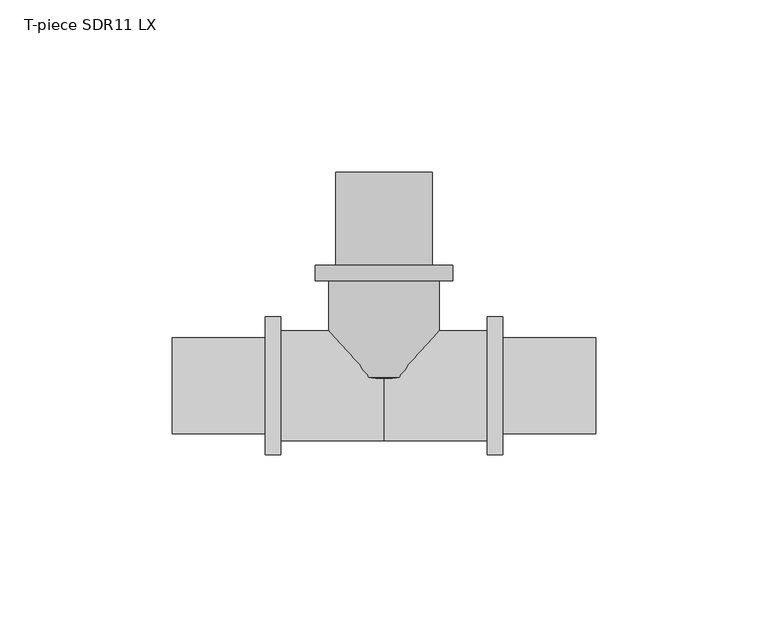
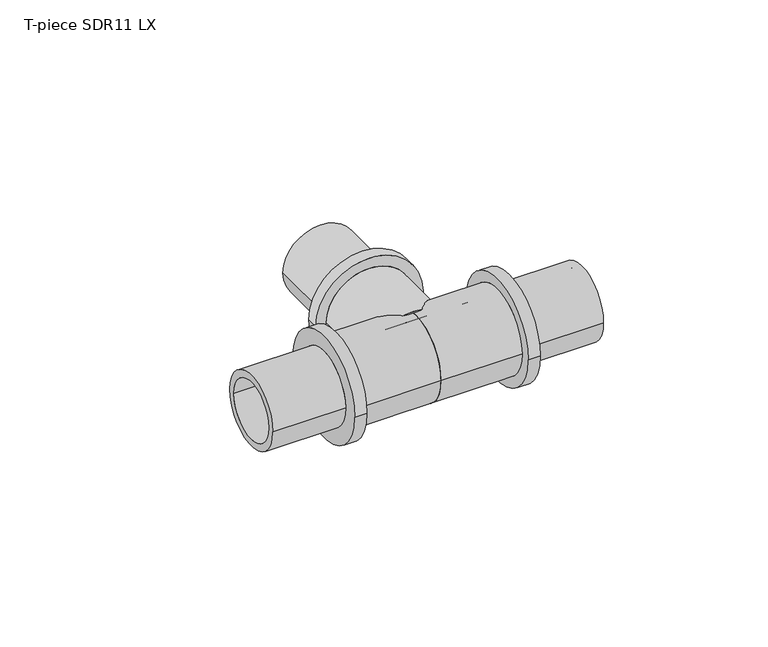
"""IFC4 building model written with IfcOpenShell, lengths in millimetres: pipe fitting geometry, T-piece SDR11 LX : T-piece LX SDR11 LX."""

import ifcopenshell
import ifcopenshell.guid

model = None  # the IFC model being written
_history = None  # IfcOwnerHistory: only IFC2X3 demands one
_inside = {}  # id of a spatial element -> (the spatial element, [elements in it])
_under = {}  # id of a project, library or spatial element -> (it, [spatial elements below it])
_declared = {}  # id of a project -> (the project, [libraries it declares])
_typed = {}  # id of a type object -> (the type object, [elements of that type])
_made_of = {}  # id of a material, layer set ... -> (it, [elements and type objects made of it])


def new_model(schema):
    """Start an empty IFC model of exactly this schema.

    Asked for "IFC4X3", IfcOpenShell would pick the latest addendum, in which some entities
    have other attributes; the version numbers below select the first issue.
    IFC2X3 requires an IfcOwnerHistory on every rooted entity: one is made here for all.
    """
    global model, _history
    if schema == "IFC4X3":
        model = ifcopenshell.file(schema_version=(4, 3, 0, 0))
    else:
        model = ifcopenshell.file(schema=schema)
    _inside.clear()
    _under.clear()
    _declared.clear()
    _typed.clear()
    _made_of.clear()
    _history = None
    if model.schema == "IFC2X3":
        org = make("IfcOrganization", Name="unknown")
        user = make(
            "IfcPersonAndOrganization",
            ThePerson=make("IfcPerson", FamilyName="unknown"),
            TheOrganization=org,
        )
        app = make(
            "IfcApplication",
            ApplicationDeveloper=org,
            Version="unknown",
            ApplicationFullName="unknown",
            ApplicationIdentifier="unknown",
        )
        _history = make(
            "IfcOwnerHistory",
            OwningUser=user,
            OwningApplication=app,
            ChangeAction="ADDED",
            CreationDate=0,
        )
    return model


def make(cls, **values):
    """One entity of the class cls with the attributes given. An attribute that is None is left unset."""
    return model.create_entity(
        cls, **{name: value for name, value in values.items() if value is not None}
    )


def rooted(cls, **values):
    """An entity with a GlobalId (a new one), such as an element, a storey or a relation."""
    return make(cls, GlobalId=ifcopenshell.guid.new(), OwnerHistory=_history, **values)


def si_unit(unit_type, name, prefix=None):
    """IfcSIUnit, for example si_unit("LENGTHUNIT", "METRE", prefix="MILLI")."""
    return make("IfcSIUnit", UnitType=unit_type, Prefix=prefix, Name=name)


def assignment(units):
    """IfcUnitAssignment: the units of a project."""
    return None if units is None else make("IfcUnitAssignment", Units=units)


def point(xyz):
    """IfcCartesianPoint."""
    return None if xyz is None else make("IfcCartesianPoint", Coordinates=xyz)


def direction(xyz):
    """IfcDirection."""
    return None if xyz is None else make("IfcDirection", DirectionRatios=xyz)


def frame(location, z_axis=None, x_axis=None):
    """IfcAxis2Placement3D, a coordinate frame: its origin and axes. An axis left out is left unset."""
    return make(
        "IfcAxis2Placement3D",
        Location=point(location),
        Axis=direction(z_axis),
        RefDirection=direction(x_axis),
    )


def origin():
    """The frame at (0, 0, 0) with its axes left unset."""
    return frame((0.0, 0.0, 0.0))


def place(relative_to, where):
    """IfcLocalPlacement: puts the frame where relative to a parent placement (None: the world)."""
    return make(
        "IfcLocalPlacement", PlacementRelTo=relative_to, RelativePlacement=where
    )


def context(
    kind, dimensions, precision=None, world=None, true_north=None, identifier=None
):
    """IfcGeometricRepresentationContext, for example the 3D "Model" context."""
    return make(
        "IfcGeometricRepresentationContext",
        ContextIdentifier=identifier,
        ContextType=kind,
        CoordinateSpaceDimension=dimensions,
        Precision=precision,
        WorldCoordinateSystem=world,
        TrueNorth=true_north,
    )


def project(units=None, contexts=None):
    """IfcProject with its units and contexts."""
    return rooted(
        "IfcProject",
        Name="project",
        RepresentationContexts=contexts,
        UnitsInContext=assignment(units),
    )


def spatial(cls, under=None, at=None, **own):
    """A site, building, storey or space (cls), placed at a placement, below another one or the project."""
    s = rooted(cls, ObjectPlacement=at, **own)
    if under is not None:
        _under.setdefault(under.id(), (under, []))[1].append(s)
    return s


def polyline(points):
    """IfcPolyline through the points."""
    return make("IfcPolyline", Points=[point(p) for p in points])


def circle_curve(where, radius):
    """IfcCircle in the frame where."""
    return make("IfcCircle", Position=where, Radius=radius)


def ellipse_curve(where, semi_axis1, semi_axis2):
    """IfcEllipse in the frame where."""
    return make(
        "IfcEllipse", Position=where, SemiAxis1=semi_axis1, SemiAxis2=semi_axis2
    )


def trimmed(basis, trim1, trim2, sense, master):
    """IfcTrimmedCurve: the piece of a basis curve between two trims."""
    return make(
        "IfcTrimmedCurve",
        BasisCurve=basis,
        Trim1=trim1,
        Trim2=trim2,
        SenseAgreement=sense,
        MasterRepresentation=master,
    )


def shape(context_of_items, identifier, shape_type, items):
    """IfcShapeRepresentation: the items that make up one representation, for example the "Body"."""
    return make(
        "IfcShapeRepresentation",
        ContextOfItems=context_of_items,
        RepresentationIdentifier=identifier,
        RepresentationType=shape_type,
        Items=items,
    )


def source(mapping_origin, context_of_items, identifier, shape_type, items):
    """IfcRepresentationMap: a shape defined once, which mapped items show again and again."""
    return make(
        "IfcRepresentationMap",
        MappingOrigin=mapping_origin,
        MappedRepresentation=shape(context_of_items, identifier, shape_type, items),
    )


def transform(
    local_origin,
    x_axis=None,
    y_axis=None,
    z_axis=None,
    scale=None,
    scale2=None,
    scale3=None,
    uniform=True,
):
    """IfcCartesianTransformationOperator3D, or its non-uniform kind. x_axis, y_axis, z_axis: its Axis1, 2, 3."""
    if uniform:
        return make(
            "IfcCartesianTransformationOperator3D",
            Axis1=direction(x_axis),
            Axis2=direction(y_axis),
            LocalOrigin=point(local_origin),
            Scale=scale,
            Axis3=direction(z_axis),
        )
    return make(
        "IfcCartesianTransformationOperator3DnonUniform",
        Axis1=direction(x_axis),
        Axis2=direction(y_axis),
        LocalOrigin=point(local_origin),
        Scale=scale,
        Axis3=direction(z_axis),
        Scale2=scale2,
        Scale3=scale3,
    )


def mapped(mapping_source, mapping_target):
    """IfcMappedItem: shows the shape of a source again, moved by a transform."""
    return make(
        "IfcMappedItem", MappingSource=mapping_source, MappingTarget=mapping_target
    )


def made_of(thing, what):
    """Note that an element or type object is made of a material, layer set ...; save() writes the relation."""
    if what is not None:
        _made_of.setdefault(what.id(), (what, []))[1].append(thing)
    return thing


def element(
    cls,
    number,
    at=None,
    inside=None,
    cuts=None,
    type_object=None,
    material=None,
    context=None,
    identifier="Body",
    shape_type=None,
    held_by="IfcProductDefinitionShape",
    body=None,
    shapes=None,
    **own,
):
    """One element of the class cls, such as IfcWall. Its Tag is "e" and its number.

    at: its placement. inside: the storey or other place that contains it. cuts: it is an
    opening in that element (IfcRelVoidsElement). A single representation is given by context,
    identifier, shape_type and body (its items); several are given by shapes. held_by: the class
    of the entity that holds the representations. save() writes the other relations.
    """
    e = rooted(cls, Tag="e%d" % number, ObjectPlacement=at, **own)
    if body is not None:
        shapes = [shape(context, identifier, shape_type, body)]
    if shapes is not None:
        e.Representation = make(held_by, Representations=shapes)
    if inside is not None:
        _inside.setdefault(inside.id(), (inside, []))[1].append(e)
    if cuts is not None:
        rooted(
            "IfcRelVoidsElement", RelatingBuildingElement=cuts, RelatedOpeningElement=e
        )
    if type_object is not None:
        _typed.setdefault(type_object.id(), (type_object, []))[1].append(e)
    return made_of(e, material)


def aggregate(whole, parts):
    """IfcRelAggregates: a whole, such as a stair, and the parts it consists of."""
    return rooted("IfcRelAggregates", RelatingObject=whole, RelatedObjects=parts)


def save(model, path):
    """Write the relations noted so far, then the file.

    IfcRelAggregates (storeys below a building ...), IfcRelContainedInSpatialStructure (elements
    in a storey), IfcRelDefinesByType, IfcRelAssociatesMaterial and IfcRelDeclares: one each for
    every whole, place, type object, material and project.
    """
    for whole, parts in _under.values():
        aggregate(whole, parts)
    for where, things in _inside.values():
        rooted(
            "IfcRelContainedInSpatialStructure",
            RelatedElements=things,
            RelatingStructure=where,
        )
    for kind, things in _typed.values():
        rooted("IfcRelDefinesByType", RelatedObjects=things, RelatingType=kind)
    for what, things in _made_of.values():
        rooted("IfcRelAssociatesMaterial", RelatedObjects=things, RelatingMaterial=what)
    for by, libraries in _declared.values():
        rooted("IfcRelDeclares", RelatingContext=by, RelatedDefinitions=libraries)
    model.write(path)


def plane_surface(at):
    """IfcPlane: the flat surface through the origin of the frame at, square to its z axis."""
    return make("IfcPlane", Position=at)


def cylinder_surface(at, radius):
    """IfcCylindricalSurface: all points at the distance radius from the z axis of the frame at."""
    return make("IfcCylindricalSurface", Position=at, Radius=radius)


def revolved_surface(curve, axis_point, axis_direction):
    """IfcSurfaceOfRevolution: the curve turned about the line through axis_point along axis_direction."""
    return make(
        "IfcSurfaceOfRevolution",
        SweptCurve=make("IfcArbitraryOpenProfileDef", ProfileType="CURVE", Curve=curve),
        AxisPosition=make("IfcAxis1Placement", Location=point(axis_point), Axis=direction(axis_direction)),
    )


def advanced_brep(points, edges, surfaces, faces):
    """IfcAdvancedBrep: a solid bounded by faces that lie on surfaces and meet in shared edges.

    An edge is (start, end): straight between two places in points (the first is 0);
    or (start, end, curve); or (start, end, curve, False) where it runs against its curve.
    A face is (place in surfaces, loops), or (place, loops, False) where it looks against
    its surface's normal. A loop lists edges by number (the first is 1), with a minus sign
    where the edge is run from its end to its start. The first loop is the outer one.
    """
    corners = [point(p) for p in points]
    vertices = [make("IfcVertexPoint", VertexGeometry=c) for c in corners]
    made = []
    for start, end, *more in edges:
        made.append(
            make(
                "IfcEdgeCurve",
                EdgeStart=vertices[start],
                EdgeEnd=vertices[end],
                EdgeGeometry=more[0] if more else make("IfcPolyline", Points=[corners[start], corners[end]]),
                SameSense=more[1] if len(more) > 1 else True,
            )
        )
    hull = []
    for where, loops, *sense in faces:
        bounds = []
        for j, loop in enumerate(loops):
            ring = [make("IfcOrientedEdge", EdgeElement=made[abs(k) - 1], Orientation=k > 0) for k in loop]
            bounds.append(
                make(
                    "IfcFaceOuterBound" if j == 0 else "IfcFaceBound",
                    Bound=make("IfcEdgeLoop", EdgeList=ring),
                    Orientation=True,
                )
            )
        hull.append(make("IfcAdvancedFace", Bounds=bounds, FaceSurface=surfaces[where], SameSense=sense[0] if sense else True))
    return make("IfcAdvancedBrep", Outer=make("IfcClosedShell", CfsFaces=hull))


def t_piece_sdr11_lx_2a0a5856(model_context):
    return source(origin(), model_context, "Body", "AdvancedBrep", [
        advanced_brep(
        [(16.0, 2.4429249, 0.0), (-16.0, 2.4429249, 0.0), (-16.0, 30.5, 0.0), (16.0, 30.5, 0.0), (11.2, 62.0, 0.0), (-11.2, 62.0, 0.0), (-11.2, 0.0, 0.0), (11.2, 0.0, 0.0), (13.95, 35.0, 0.0), (-13.95, 35.0, 0.0), (-13.95, 62.0, 0.0), (13.95, 62.0, 0.0), (20.0, 30.5, 0.0), (-20.0, 30.5, 0.0), (-20.0, 35.0, 0.0), (20.0, 35.0, 0.0)],
        [
            (0, 1, circle_curve(frame((0.0, 2.4429249, 0.0), z_axis=(0.0, 1.0, 0.0), x_axis=(-1.0, 0.0, 0.0)), 16.0)),
            (1, 2),
            (2, 3, circle_curve(frame((0.0, 30.5, 0.0), z_axis=(0.0, -1.0, 0.0), x_axis=(-1.0, 0.0, 0.0)), 16.0)),
            (3, 0),
            (4, 5, circle_curve(frame((0.0, 62.0, 0.0), z_axis=(0.0, 1.0, 0.0), x_axis=(-1.0, 0.0, 0.0)), 11.2)),
            (5, 6),
            (6, 7, circle_curve(frame((0.0, 0.0, 0.0), z_axis=(0.0, -1.0, 0.0), x_axis=(-1.0, 0.0, 0.0)), 11.2)),
            (7, 4),
            (8, 9, circle_curve(frame((0.0, 35.0, 0.0), z_axis=(0.0, 1.0, 0.0), x_axis=(-1.0, 0.0, 0.0)), 13.95)),
            (9, 10),
            (10, 11, circle_curve(frame((0.0, 62.0, 0.0), z_axis=(0.0, -1.0, 0.0), x_axis=(-1.0, 0.0, 0.0)), 13.95)),
            (11, 8),
            (12, 13, circle_curve(frame((0.0, 30.5, 0.0), z_axis=(0.0, 1.0, 0.0), x_axis=(-1.0, 0.0, 0.0)), 20.0)),
            (13, 14),
            (14, 15, circle_curve(frame((0.0, 35.0, 0.0), z_axis=(0.0, -1.0, 0.0), x_axis=(-1.0, 0.0, 0.0)), 20.0)),
            (15, 12),
            (12, 13, circle_curve(frame((0.0, 30.5, 0.0), z_axis=(0.0, -1.0, 0.0), x_axis=(1.0, 0.0, 0.0)), 20.0)),
            (2, 3, circle_curve(frame((0.0, 30.5, 0.0), z_axis=(0.0, 1.0, 0.0), x_axis=(1.0, 0.0, 0.0)), 16.0)),
            (1, 0, circle_curve(frame((0.0, 2.4429249, 0.0), z_axis=(0.0, 1.0, 0.0), x_axis=(1.0, 0.0, 0.0)), 16.0)),
            (5, 4, circle_curve(frame((0.0, 62.0, 0.0), z_axis=(0.0, 1.0, 0.0), x_axis=(1.0, 0.0, 0.0)), 11.2)),
            (7, 6, circle_curve(frame((0.0, 0.0, 0.0), z_axis=(0.0, -1.0, 0.0), x_axis=(1.0, 0.0, 0.0)), 11.2)),
            (10, 11, circle_curve(frame((0.0, 62.0, 0.0), z_axis=(0.0, 1.0, 0.0), x_axis=(1.0, 0.0, 0.0)), 13.95)),
            (9, 8, circle_curve(frame((0.0, 35.0, 0.0), z_axis=(0.0, 1.0, 0.0), x_axis=(1.0, 0.0, 0.0)), 13.95)),
            (14, 15, circle_curve(frame((0.0, 35.0, 0.0), z_axis=(0.0, 1.0, 0.0), x_axis=(1.0, 0.0, 0.0)), 20.0)),
            (6, 1, circle_curve(frame((-6.4462802, 15.2775046, 0.0), z_axis=(0.0, 0.0, -1.0), x_axis=(0.0, -1.0, 0.0)), 16.0)),
            (0, 7, circle_curve(frame((6.4462802, 15.2775046, 0.0), z_axis=(0.0, 0.0, -1.0), x_axis=(0.0, -1.0, 0.0)), 16.0)),
        ],
        [
            cylinder_surface(frame((0.0, 0.0, 0.0), z_axis=(0.0, -1.0, 0.0), x_axis=(-1.0, 0.0, 0.0)), 16.0),
            revolved_surface(polyline([(-11.2, 0.0, 0.0), (-11.2, 62.0, 0.0)]), (0.0, 0.0, 0.0), (0.0, -1.0, 0.0)),
            cylinder_surface(frame((0.0, 0.0, 0.0), z_axis=(0.0, -1.0, 0.0), x_axis=(-1.0, 0.0, 0.0)), 13.95),
            cylinder_surface(frame((0.0, 0.0, 0.0), z_axis=(0.0, -1.0, 0.0), x_axis=(-1.0, 0.0, 0.0)), 20.0),
            plane_surface(frame((0.0, 30.5, 0.0), z_axis=(0.0, -1.0, 0.0), x_axis=(1.0, 0.0, 0.0))),
            cylinder_surface(frame((0.0, 0.0, 0.0), z_axis=(0.0, -1.0, 0.0), x_axis=(1.0, 0.0, 0.0)), 16.0),
            revolved_surface(polyline([(11.2, 0.0, 0.0), (11.2, 62.0, 0.0)]), (0.0, 0.0, 0.0), (0.0, -1.0, 0.0)),
            plane_surface(frame((0.0, 62.0, 0.0), z_axis=(0.0, 1.0, 0.0), x_axis=(1.0, 0.0, 0.0))),
            cylinder_surface(frame((0.0, 0.0, 0.0), z_axis=(0.0, -1.0, 0.0), x_axis=(1.0, 0.0, 0.0)), 13.95),
            plane_surface(frame((0.0, 35.0, 0.0), z_axis=(0.0, 1.0, 0.0), x_axis=(1.0, 0.0, 0.0))),
            cylinder_surface(frame((0.0, 0.0, 0.0), z_axis=(0.0, -1.0, 0.0), x_axis=(1.0, 0.0, 0.0)), 20.0),
            revolved_surface(trimmed(ellipse_curve(frame((-6.4462802, 15.2775046, 0.0), z_axis=(0.0, 0.0, 1.0), x_axis=(0.0, -1.0, 0.0)), 16.0, 16.0), [point((-16.0, 2.4429249, 0.0))], [point((-11.2, 0.0, 0.0))], True, "CARTESIAN"), (0.0, 0.0, 0.0), (0.0, -1.0, 0.0)),
            revolved_surface(trimmed(ellipse_curve(frame((6.4462802, 15.2775046, 0.0), z_axis=(0.0, 0.0, -1.0), x_axis=(0.0, -1.0, 0.0)), 16.0, 16.0), [point((16.0, 2.4429249, 0.0))], [point((11.2, 0.0, 0.0))], True, "CARTESIAN"), (0.0, 0.0, 0.0), (0.0, -1.0, 0.0)),
        ],
        [
            (0, [[1, 2, 3, 4]]),
            (1, [[5, 6, 7, 8]]),
            (2, [[9, 10, 11, 12]]),
            (3, [[13, 14, 15, 16]]),
            (4, [[17, -13], [18, -3]]),
            (5, [[19, -4, -18, -2]]),
            (6, [[20, -8, 21, -6]]),
            (7, [[22, -11], [-20, -5]]),
            (8, [[23, -12, -22, -10]]),
            (9, [[24, -15], [-23, -9]]),
            (10, [[-17, -16, -24, -14]]),
            (11, [[-7, 25, -1, 26]]),
            (12, [[-21, -26, -19, -25]]),
        ],
    ),
        advanced_brep(
        [(30.0, 16.0, 0.0), (30.0, -16.0, 0.0), (0.0, -16.0, 0.0), (0.0, 16.0, 0.0), (0.0, 11.2, 0.0), (0.0, -11.2, 0.0), (61.5, -11.2, 0.0), (61.5, 11.2, 0.0), (61.5, 13.95, 0.0), (61.5, -13.95, 0.0), (34.5, -13.95, 0.0), (34.5, 13.95, 0.0), (34.5, 20.0, 0.0), (34.5, -20.0, 0.0), (30.0, -20.0, 0.0), (30.0, 20.0, 0.0)],
        [
            (0, 1, circle_curve(frame((30.0, 0.0, 0.0), z_axis=(-1.0, 0.0, 0.0), x_axis=(0.0, -1.0, 0.0)), 16.0)),
            (1, 2),
            (2, 3, circle_curve(frame((0.0, 0.0, 0.0), z_axis=(1.0, 0.0, 0.0), x_axis=(0.0, -1.0, 0.0)), 16.0)),
            (3, 0),
            (4, 5, circle_curve(frame((0.0, 0.0, 0.0), z_axis=(-1.0, 0.0, 0.0), x_axis=(0.0, -1.0, 0.0)), 11.2)),
            (5, 6),
            (6, 7, circle_curve(frame((61.5, 0.0, 0.0), z_axis=(1.0, 0.0, 0.0), x_axis=(0.0, -1.0, 0.0)), 11.2)),
            (7, 4),
            (8, 9, circle_curve(frame((61.5, 0.0, 0.0), z_axis=(-1.0, 0.0, 0.0), x_axis=(0.0, -1.0, 0.0)), 13.95)),
            (9, 10),
            (10, 11, circle_curve(frame((34.5, 0.0, 0.0), z_axis=(1.0, 0.0, 0.0), x_axis=(0.0, -1.0, 0.0)), 13.95)),
            (11, 8),
            (12, 13, circle_curve(frame((34.5, 0.0, 0.0), z_axis=(-1.0, 0.0, 0.0), x_axis=(0.0, -1.0, 0.0)), 20.0)),
            (13, 14),
            (14, 15, circle_curve(frame((30.0, 0.0, 0.0), z_axis=(1.0, 0.0, 0.0), x_axis=(0.0, -1.0, 0.0)), 20.0)),
            (15, 12),
            (14, 15, circle_curve(frame((30.0, 0.0, 0.0), z_axis=(-1.0, 0.0, 0.0), x_axis=(0.0, 1.0, 0.0)), 20.0)),
            (0, 1, circle_curve(frame((30.0, 0.0, 0.0), z_axis=(1.0, 0.0, 0.0), x_axis=(0.0, 1.0, 0.0)), 16.0)),
            (3, 2, circle_curve(frame((0.0, 0.0, 0.0), z_axis=(1.0, 0.0, 0.0), x_axis=(0.0, 1.0, 0.0)), 16.0)),
            (4, 5, circle_curve(frame((0.0, 0.0, 0.0), z_axis=(1.0, 0.0, 0.0), x_axis=(0.0, 1.0, 0.0)), 11.2)),
            (7, 6, circle_curve(frame((61.5, 0.0, 0.0), z_axis=(1.0, 0.0, 0.0), x_axis=(0.0, 1.0, 0.0)), 11.2)),
            (8, 9, circle_curve(frame((61.5, 0.0, 0.0), z_axis=(1.0, 0.0, 0.0), x_axis=(0.0, 1.0, 0.0)), 13.95)),
            (11, 10, circle_curve(frame((34.5, 0.0, 0.0), z_axis=(1.0, 0.0, 0.0), x_axis=(0.0, 1.0, 0.0)), 13.95)),
            (12, 13, circle_curve(frame((34.5, 0.0, 0.0), z_axis=(1.0, 0.0, 0.0), x_axis=(0.0, 1.0, 0.0)), 20.0)),
        ],
        [
            cylinder_surface(frame((0.0, 0.0, 0.0), z_axis=(1.0, 0.0, 0.0), x_axis=(0.0, -1.0, 0.0)), 16.0),
            revolved_surface(polyline([(61.5, -11.2, 0.0), (0.0, -11.2, 0.0)]), (0.0, 0.0, 0.0), (1.0, 0.0, 0.0)),
            cylinder_surface(frame((0.0, 0.0, 0.0), z_axis=(1.0, 0.0, 0.0), x_axis=(0.0, -1.0, 0.0)), 13.95),
            cylinder_surface(frame((0.0, 0.0, 0.0), z_axis=(1.0, 0.0, 0.0), x_axis=(0.0, -1.0, 0.0)), 20.0),
            plane_surface(frame((30.0, 0.0, 0.0), z_axis=(-1.0, 0.0, 0.0), x_axis=(0.0, 1.0, 0.0))),
            cylinder_surface(frame((0.0, 0.0, 0.0), z_axis=(1.0, 0.0, 0.0), x_axis=(0.0, 1.0, 0.0)), 16.0),
            plane_surface(frame((0.0, 0.0, 0.0), z_axis=(-1.0, 0.0, 0.0), x_axis=(0.0, 1.0, 0.0))),
            revolved_surface(polyline([(61.5, 11.2, 0.0), (0.0, 11.2, 0.0)]), (0.0, 0.0, 0.0), (1.0, 0.0, 0.0)),
            plane_surface(frame((61.5, 0.0, 0.0), z_axis=(1.0, 0.0, 0.0), x_axis=(0.0, 1.0, 0.0))),
            cylinder_surface(frame((0.0, 0.0, 0.0), z_axis=(1.0, 0.0, 0.0), x_axis=(0.0, 1.0, 0.0)), 13.95),
            plane_surface(frame((34.5, 0.0, 0.0), z_axis=(1.0, 0.0, 0.0), x_axis=(0.0, 1.0, 0.0))),
            cylinder_surface(frame((0.0, 0.0, 0.0), z_axis=(1.0, 0.0, 0.0), x_axis=(0.0, 1.0, 0.0)), 20.0),
        ],
        [
            (0, [[1, 2, 3, 4]]),
            (1, [[5, 6, 7, 8]]),
            (2, [[9, 10, 11, 12]]),
            (3, [[13, 14, 15, 16]]),
            (4, [[17, -15], [18, -1]]),
            (5, [[-18, -4, 19, -2]]),
            (6, [[-19, -3], [20, -5]]),
            (7, [[-20, -8, 21, -6]]),
            (8, [[22, -9], [-21, -7]]),
            (9, [[-22, -12, 23, -10]]),
            (10, [[24, -13], [-23, -11]]),
            (11, [[-24, -16, -17, -14]]),
        ],
    ),
        advanced_brep(
        [(0.0, 16.0, 0.0), (0.0, -16.0, 0.0), (-30.0, -16.0, 0.0), (-30.0, 16.0, 0.0), (-61.5, 11.2, 0.0), (-61.5, -11.2, 0.0), (0.0, -11.2, 0.0), (0.0, 11.2, 0.0), (-34.5, 13.95, 0.0), (-34.5, -13.95, 0.0), (-61.5, -13.95, 0.0), (-61.5, 13.95, 0.0), (-30.0, 20.0, 0.0), (-30.0, -20.0, 0.0), (-34.5, -20.0, 0.0), (-34.5, 20.0, 0.0)],
        [
            (0, 1, circle_curve(frame((0.0, 0.0, 0.0), z_axis=(-1.0, 0.0, 0.0), x_axis=(0.0, -1.0, 0.0)), 16.0)),
            (1, 2),
            (2, 3, circle_curve(frame((-30.0, 0.0, 0.0), z_axis=(1.0, 0.0, 0.0), x_axis=(0.0, -1.0, 0.0)), 16.0)),
            (3, 0),
            (4, 5, circle_curve(frame((-61.5, 0.0, 0.0), z_axis=(-1.0, 0.0, 0.0), x_axis=(0.0, -1.0, 0.0)), 11.2)),
            (5, 6),
            (6, 7, circle_curve(frame((0.0, 0.0, 0.0), z_axis=(1.0, 0.0, 0.0), x_axis=(0.0, -1.0, 0.0)), 11.2)),
            (7, 4),
            (8, 9, circle_curve(frame((-34.5, 0.0, 0.0), z_axis=(-1.0, 0.0, 0.0), x_axis=(0.0, -1.0, 0.0)), 13.95)),
            (9, 10),
            (10, 11, circle_curve(frame((-61.5, 0.0, 0.0), z_axis=(1.0, 0.0, 0.0), x_axis=(0.0, -1.0, 0.0)), 13.95)),
            (11, 8),
            (12, 13, circle_curve(frame((-30.0, 0.0, 0.0), z_axis=(-1.0, 0.0, 0.0), x_axis=(0.0, -1.0, 0.0)), 20.0)),
            (13, 14),
            (14, 15, circle_curve(frame((-34.5, 0.0, 0.0), z_axis=(1.0, 0.0, 0.0), x_axis=(0.0, -1.0, 0.0)), 20.0)),
            (15, 12),
            (12, 13, circle_curve(frame((-30.0, 0.0, 0.0), z_axis=(1.0, 0.0, 0.0), x_axis=(0.0, 1.0, 0.0)), 20.0)),
            (2, 3, circle_curve(frame((-30.0, 0.0, 0.0), z_axis=(-1.0, 0.0, 0.0), x_axis=(0.0, 1.0, 0.0)), 16.0)),
            (1, 0, circle_curve(frame((0.0, 0.0, 0.0), z_axis=(-1.0, 0.0, 0.0), x_axis=(0.0, 1.0, 0.0)), 16.0)),
            (6, 7, circle_curve(frame((0.0, 0.0, 0.0), z_axis=(-1.0, 0.0, 0.0), x_axis=(0.0, 1.0, 0.0)), 11.2)),
            (5, 4, circle_curve(frame((-61.5, 0.0, 0.0), z_axis=(-1.0, 0.0, 0.0), x_axis=(0.0, 1.0, 0.0)), 11.2)),
            (10, 11, circle_curve(frame((-61.5, 0.0, 0.0), z_axis=(-1.0, 0.0, 0.0), x_axis=(0.0, 1.0, 0.0)), 13.95)),
            (9, 8, circle_curve(frame((-34.5, 0.0, 0.0), z_axis=(-1.0, 0.0, 0.0), x_axis=(0.0, 1.0, 0.0)), 13.95)),
            (14, 15, circle_curve(frame((-34.5, 0.0, 0.0), z_axis=(-1.0, 0.0, 0.0), x_axis=(0.0, 1.0, 0.0)), 20.0)),
        ],
        [
            cylinder_surface(frame((0.0, 0.0, 0.0), z_axis=(1.0, 0.0, 0.0), x_axis=(0.0, -1.0, 0.0)), 16.0),
            revolved_surface(polyline([(0.0, -11.2, 0.0), (-61.5, -11.2, 0.0)]), (0.0, 0.0, 0.0), (1.0, 0.0, 0.0)),
            cylinder_surface(frame((0.0, 0.0, 0.0), z_axis=(1.0, 0.0, 0.0), x_axis=(0.0, -1.0, 0.0)), 13.95),
            cylinder_surface(frame((0.0, 0.0, 0.0), z_axis=(1.0, 0.0, 0.0), x_axis=(0.0, -1.0, 0.0)), 20.0),
            plane_surface(frame((-30.0, 0.0, 0.0), z_axis=(1.0, 0.0, 0.0), x_axis=(0.0, 1.0, 0.0))),
            cylinder_surface(frame((0.0, 0.0, 0.0), z_axis=(1.0, 0.0, 0.0), x_axis=(0.0, 1.0, 0.0)), 16.0),
            plane_surface(frame((0.0, 0.0, 0.0), z_axis=(1.0, 0.0, 0.0), x_axis=(0.0, 1.0, 0.0))),
            revolved_surface(polyline([(0.0, 11.2, 0.0), (-61.5, 11.2, 0.0)]), (0.0, 0.0, 0.0), (1.0, 0.0, 0.0)),
            plane_surface(frame((-61.5, 0.0, 0.0), z_axis=(-1.0, 0.0, 0.0), x_axis=(0.0, 1.0, 0.0))),
            cylinder_surface(frame((0.0, 0.0, 0.0), z_axis=(1.0, 0.0, 0.0), x_axis=(0.0, 1.0, 0.0)), 13.95),
            plane_surface(frame((-34.5, 0.0, 0.0), z_axis=(-1.0, 0.0, 0.0), x_axis=(0.0, 1.0, 0.0))),
            cylinder_surface(frame((0.0, 0.0, 0.0), z_axis=(1.0, 0.0, 0.0), x_axis=(0.0, 1.0, 0.0)), 20.0),
        ],
        [
            (0, [[1, 2, 3, 4]]),
            (1, [[5, 6, 7, 8]]),
            (2, [[9, 10, 11, 12]]),
            (3, [[13, 14, 15, 16]]),
            (4, [[17, -13], [18, -3]]),
            (5, [[19, -4, -18, -2]]),
            (6, [[-19, -1], [20, -7]]),
            (7, [[21, -8, -20, -6]]),
            (8, [[22, -11], [-21, -5]]),
            (9, [[23, -12, -22, -10]]),
            (10, [[24, -15], [-23, -9]]),
            (11, [[-17, -16, -24, -14]]),
        ],
    ),
    ])


if __name__ == "__main__":
    model = new_model("IFC4")
    model_context = context("Model", 3, world=origin())
    ifc_project = project(units=[si_unit("LENGTHUNIT", "METRE", prefix="MILLI")], contexts=[model_context])
    site = spatial("IfcSite", under=ifc_project)
    building = spatial("IfcBuilding", under=site)
    placement = place(None, origin())
    t_piece_sdr11_lx_shape = t_piece_sdr11_lx_2a0a5856(model_context)
    element("IfcPipeFitting", 1, ObjectType="T-piece SDR11 LX : T-piece LX SDR11 LX", at=placement, inside=building, context=model_context, shape_type="MappedRepresentation", body=[
        mapped(t_piece_sdr11_lx_shape, transform((0.0, 0.0, 0.0), x_axis=(1.0, 0.0, 0.0), y_axis=(0.0, 1.0, 0.0), z_axis=(0.0, 0.0, 1.0))),
    ])
    save(model, "model.ifc")
